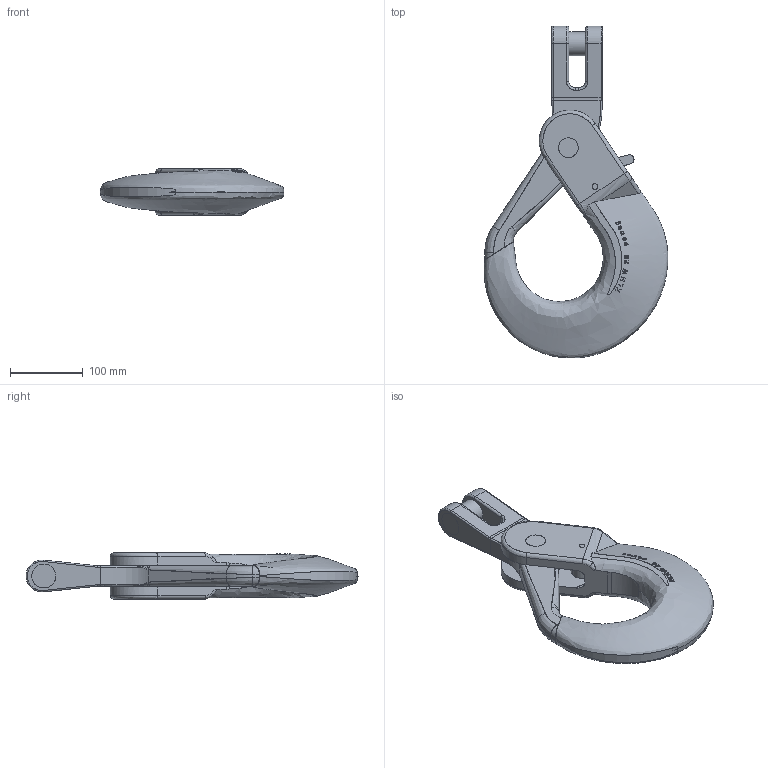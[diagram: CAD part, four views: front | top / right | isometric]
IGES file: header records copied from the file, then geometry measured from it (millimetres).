
Global section: file name: C:\Dokumente und Einstellungen\kse\Desktop\UG_Plots\KLHW 26_Kundenmodell zusammenbau.igs; native system: NX V7.5; preprocessor: SIEMENS PLM Software NX 7.5; date: 20111223.142021; units: millimetre
Bounding box: 253 x 457.13 x 64 mm (x, y, z)
Surface area: 239016.8 mm2 (no closed solid volume)
Topology: 0 solids, 0 shells, 296 faces, 2540 edges, 2533 vertices
Faces by surface type: bspline 285, offset 11
